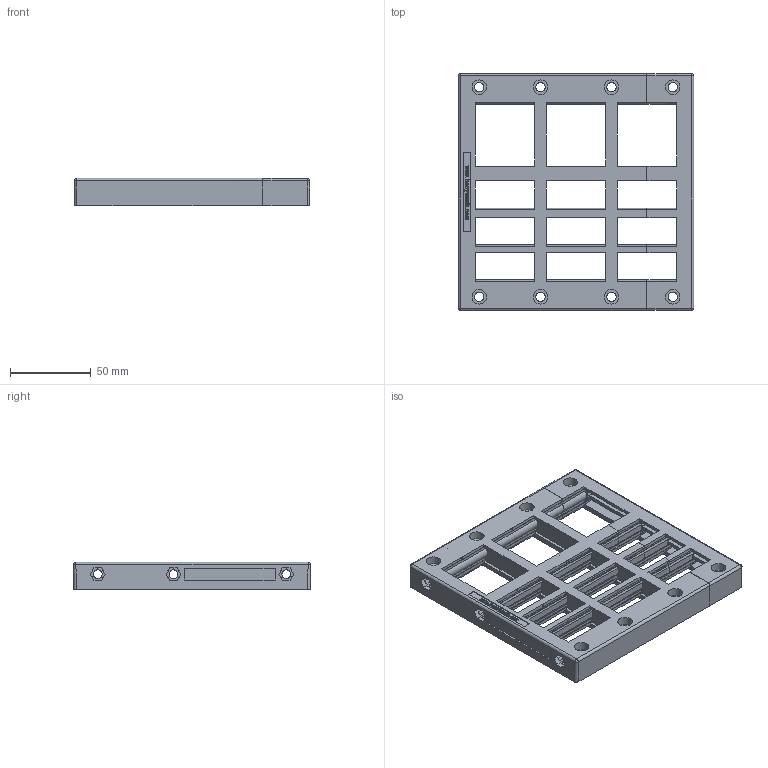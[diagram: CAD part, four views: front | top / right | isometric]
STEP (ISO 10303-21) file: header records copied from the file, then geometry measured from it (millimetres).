
FILE_DESCRIPTION(/* description */ (''),/* implementation_level */ '2;1');
FILE_NAME(/* name */ 'KEL 24_21-2MT.stp',/* time_stamp */ '2024-07-10T13:49:06+08:00',/* author */ (''),/* organization */ (''),/* preprocessor_version */ 'ST-DEVELOPER v16.7',/* originating_system */ 'SIEMENS PLM Software NX 12.0',/* authorisation */ '');
FILE_SCHEMA (('AP203_CONFIGURATION_CONTROLLED_3D_DESIGN_OF_MECHANICAL_PARTS_AND_ASSEMBLIES_MIM_LF { 1 0 10303 403 2 1 2}'));
Products named in the file (1): Admi2BB01A31e4yy
Bounding box: 146 x 147 x 17.01 mm (x, y, z)
Volume: 128479.6 mm3; surface area: 87189 mm2
Topology: 1 solids, 13 shells, 1695 faces, 4882 edges, 3236 vertices
Faces by surface type: plane 1089, cylinder 271, extrusion 137, cone 84, bspline 56, torus 30, sphere 28
Full cylindrical faces by diameter (mm): 3 x4, 5.5 x6, 5.8 x8, 9 x11
Entity records: 60134 total; most frequent: CARTESIAN_POINT 18018, ORIENTED_EDGE 9616, DIRECTION 7358, EDGE_CURVE 4808, VERTEX_POINT 3219, VECTOR 2602, LINE 2465, AXIS2_PLACEMENT_3D 2378
